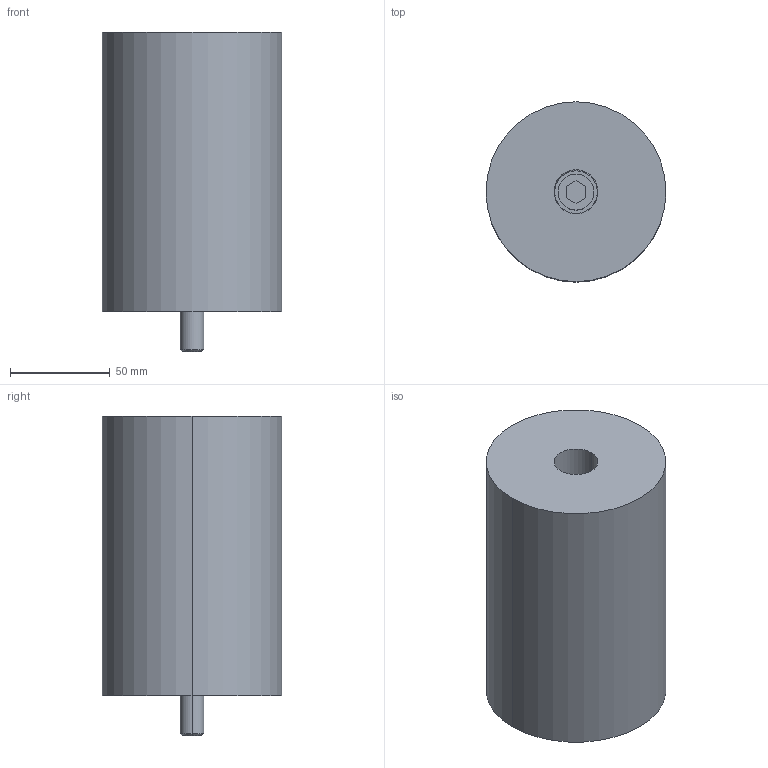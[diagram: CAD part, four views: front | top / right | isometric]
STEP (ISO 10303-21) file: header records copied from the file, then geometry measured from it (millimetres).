
FILE_DESCRIPTION(/* description */ (''),/* implementation_level */ '2;1');
FILE_NAME(/* name */ '3d_esbt90-140_07000_r00.stp',/* time_stamp */ '2011-01-10T14:15:39+09:00',/* author */ ('MISUMI'),/* organization */ (''),/* preprocessor_version */ 'ST-DEVELOPER v11',/* originating_system */ 'UGS - NX 5.0',/* authorisation */ '');
FILE_SCHEMA (('CONFIG_CONTROL_DESIGN'));
Length unit declared in the file: millimetre
Products named in the file (1): 3d_esbt90-140_07000_r00
Bounding box: 90 x 90 x 160 mm (x, y, z)
Volume: 857060.2 mm3; surface area: 69366.7 mm2
Topology: 3 solids, 3 shells, 35 faces, 72 edges, 46 vertices
Faces by surface type: plane 15, cylinder 14, cone 6
Entity records: 1022 total; most frequent: DIRECTION 178, CARTESIAN_POINT 154, ORIENTED_EDGE 144, EDGE_CURVE 72, AXIS2_PLACEMENT_3D 70, VERTEX_POINT 46, EDGE_LOOP 42, LINE 38
